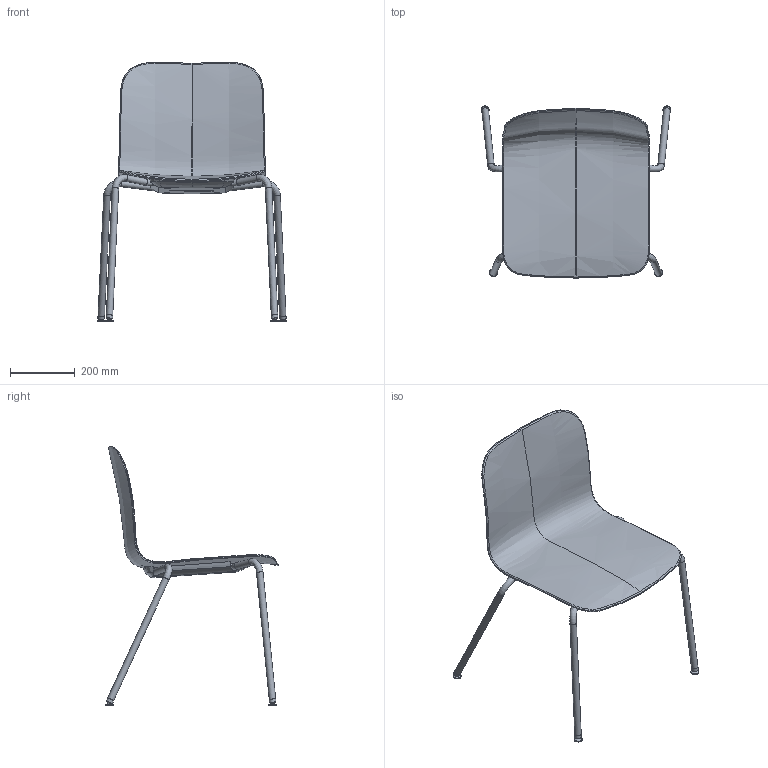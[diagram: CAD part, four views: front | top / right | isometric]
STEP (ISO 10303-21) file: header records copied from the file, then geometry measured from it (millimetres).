
FILE_DESCRIPTION(/* description */ (''),/* implementation_level */ '2;1');
FILE_NAME(/* name */ 'Lambda LA4001-090',/* time_stamp */ '2024-03-04T14:41:04+01:00',/* author */ (''),/* organization */ (''),/* preprocessor_version */ 'ST-DEVELOPER v16.5',/* originating_system */ 'Rhino 7.35',/* authorisation */ '');
FILE_SCHEMA (('CONFIG_CONTROL_DESIGN'));
Length unit declared in the file: millimetre
Products named in the file (1): Document
Bounding box: 583.67 x 530.54 x 797.34 mm (x, y, z)
Volume: 18066.7 mm3; surface area: 1042518.6 mm2
Topology: 8 solids, 21 shells, 914 faces, 2399 edges, 1592 vertices
Faces by surface type: plane 434, bspline 364, cylinder 116
Full cylindrical faces by diameter (mm): 20 x18, 22 x4, 24.5 x4
Entity records: 74906 total; most frequent: CARTESIAN_POINT 58925, ORIENTED_EDGE 4726, EDGE_CURVE 2392, B_SPLINE_CURVE_WITH_KNOTS 2247, VERTEX_POINT 1586, EDGE_LOOP 999, ADVANCED_FACE 914, FACE_OUTER_BOUND 914
